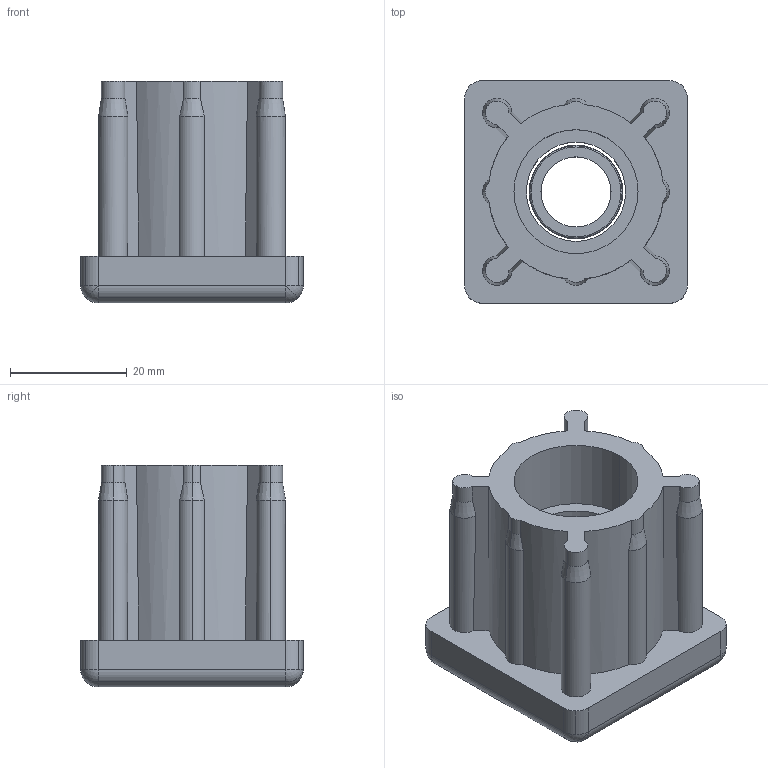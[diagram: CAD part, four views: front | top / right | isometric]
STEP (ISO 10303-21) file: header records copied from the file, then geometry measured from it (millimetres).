
FILE_DESCRIPTION (( 'STEP AP214' ), '1' );
FILE_NAME ('42006845312.STEP', '2020-02-26T11:25:03', ( '' ), ( '' ), 'SwSTEP 2.0', 'SolidWorks 2018', '' );
FILE_SCHEMA (( 'AUTOMOTIVE_DESIGN' ));
Length unit declared in the file: millimetre
Products named in the file (4): BC_M12.stp; Component1.stp; 42006845312.stp; 42006845312
Assembly tree (3 placements, depth 3):
  42006845312
    42006845312.stp
      Component1.stp
      BC_M12.stp
Bounding box: 38.1 x 38.1 x 38 mm (x, y, z)
Volume: 25610.2 mm3; surface area: 11145 mm2
Topology: 2 solids, 2 shells, 121 faces, 296 edges, 182 vertices
Faces by surface type: cylinder 68, cone 24, plane 19, sphere 8, torus 2
Entity records: 3770 total; most frequent: CARTESIAN_POINT 714, DIRECTION 680, ORIENTED_EDGE 592, EDGE_CURVE 296, AXIS2_PLACEMENT_3D 288, VERTEX_POINT 182, CIRCLE 160, EDGE_LOOP 128
